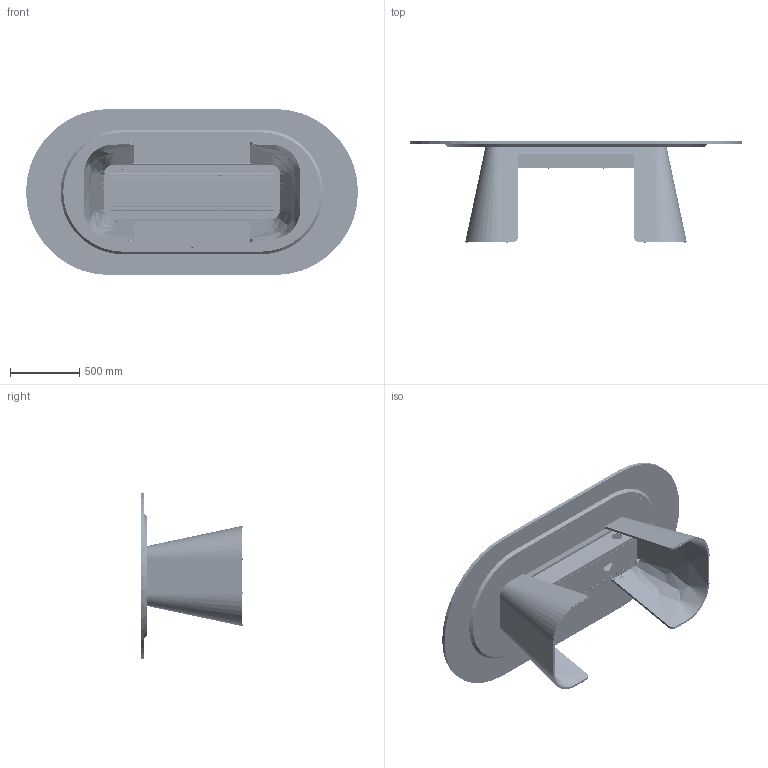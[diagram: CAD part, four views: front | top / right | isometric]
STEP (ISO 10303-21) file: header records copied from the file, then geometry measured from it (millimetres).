
FILE_DESCRIPTION (( 'STEP AP214' ), '1' );
FILE_NAME ('Alta 2400mm x 1200mm Boardroom Table.STEP', '2024-05-14T12:50:24', ( '' ), ( '' ), 'SwSTEP 2.0', 'SolidWorks 2023', '' );
FILE_SCHEMA (( 'AUTOMOTIVE_DESIGN' ));
Length unit declared in the file: millimetre
Products named in the file (24): 747 1100_1110_747 1102; 747 0030_747 0030; 747 0033_747 0033; socket countersunk head screw_bsi-Craig-SurfacePro_2691180; 747 0017_0029_747 0023; HPS-6.5-15-7.5-PA; 3351032_3351032; 747 0006_0007_747 0007; 747 1011_1014_747 1013; 711_0413; countersunk flat head cross recess screw_bsi_11_BS EN ISO 7046-1 - M5 x 6 - Z - 6N; 747 0100_0110_747 0101; 747 1021_1030_747 1027; socket countersunk head screw_bsi-Precision5820-1-2_1901310; socket countersunk head screw_bsi-Craig-SurfacePro_1901150; 747 1001_747 1008; 3351030_3351030; Alta 2400mm x 1200mm Boardroom Table; 747 1003_747 1068; LOW011_LOW011; SSBF-M6-16-A2-BL; 3351000_3351000; 747 0001_747 0008; SSBF-M8-16-10_9
Assembly tree (109 placements, depth 6):
  Alta 2400mm x 1200mm Boardroom Table
    747 1100_1110_747 1102
      747 1011_1014_747 1013
        747 1003_747 1068  x2
          747 1001_747 1008
            747 0001_747 0008
            3351032_3351032  x8
            3351000_3351000  x5
          747 0100_0110_747 0101
          LOW011_LOW011
          socket countersunk head screw_bsi-Craig-SurfacePro_1901150
        747 0030_747 0030  x2
        747 0033_747 0033
        SSBF-M8-16-10_9  x16
        HPS-6.5-15-7.5-PA  x8
        SSBF-M6-16-A2-BL  x8
      747 0006_0007_747 0007
      socket countersunk head screw_bsi-Craig-SurfacePro_2691180  x10
    747 1021_1030_747 1027
      747 0017_0029_747 0023
      3351030_3351030  x12
    711_0413  x2
    socket countersunk head screw_bsi-Precision5820-1-2_1901310  x14
    countersunk flat head cross recess screw_bsi_11_BS EN ISO 7046-1 - M5 x 6 - Z - 6N  x4
Bounding box: 2400 x 739 x 1200 mm (x, y, z)
Volume: 118199149.6 mm3; surface area: 13692409.5 mm2
Topology: 135 solids, 135 shells, 4984 faces, 11194 edges, 6572 vertices
Faces by surface type: plane 1728, cylinder 1510, cone 1488, bspline 196, torus 62
Full cylindrical faces by diameter (mm): 4.2 x4, 4.8 x128, 5 x50, 5.5 x14, 6 x656, 6.5 x8, 6.6 x12, 7 x10, 8 x274, 9.3 x4, 9.43 x10, 10 x20, 11 x32, 11.34 x24, 12 x26, 13.2 x16, 15 x16, 75 x4, 80 x2
Entity records: 30106 total; most frequent: CARTESIAN_POINT 12990, DIRECTION 3603, ORIENTED_EDGE 2732, AXIS2_PLACEMENT_3D 1465, EDGE_CURVE 1366, EDGE_LOOP 1209, VERTEX_POINT 1007, FACE_OUTER_BOUND 889
